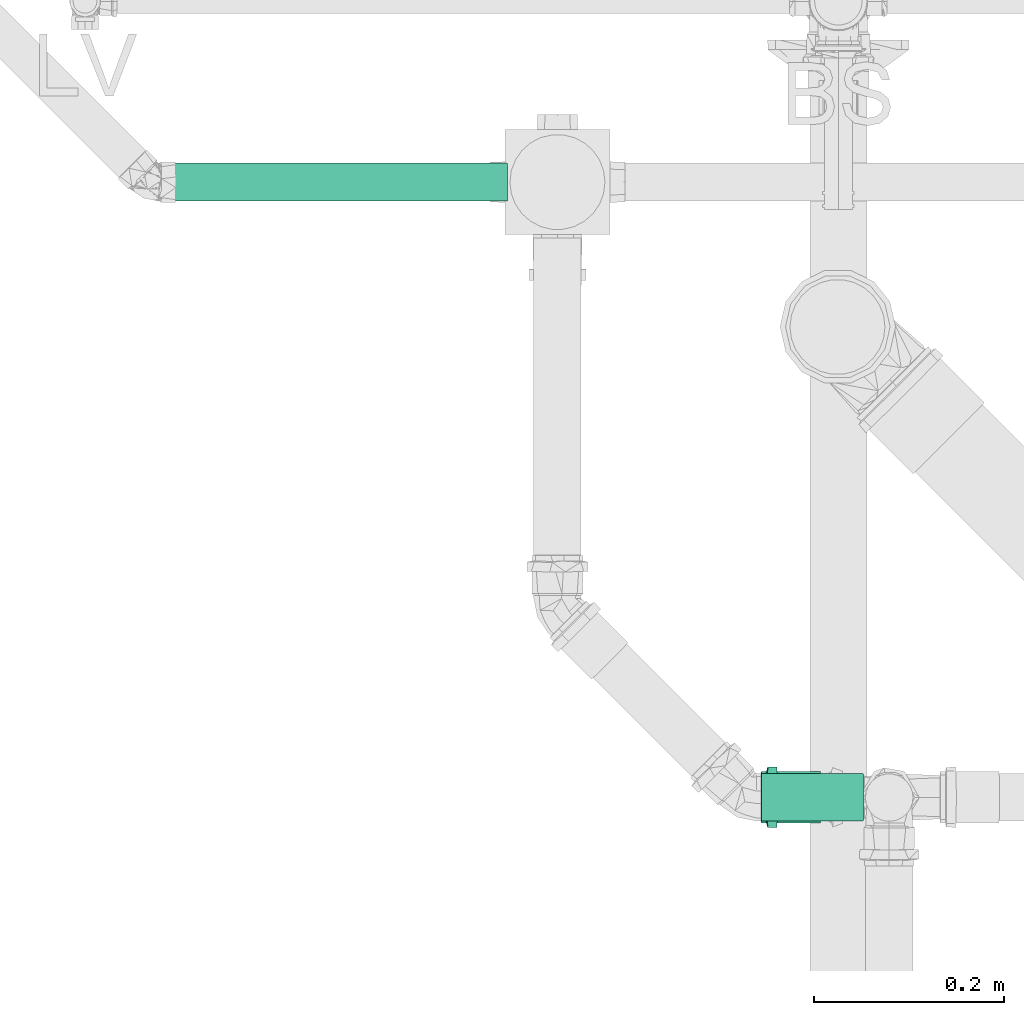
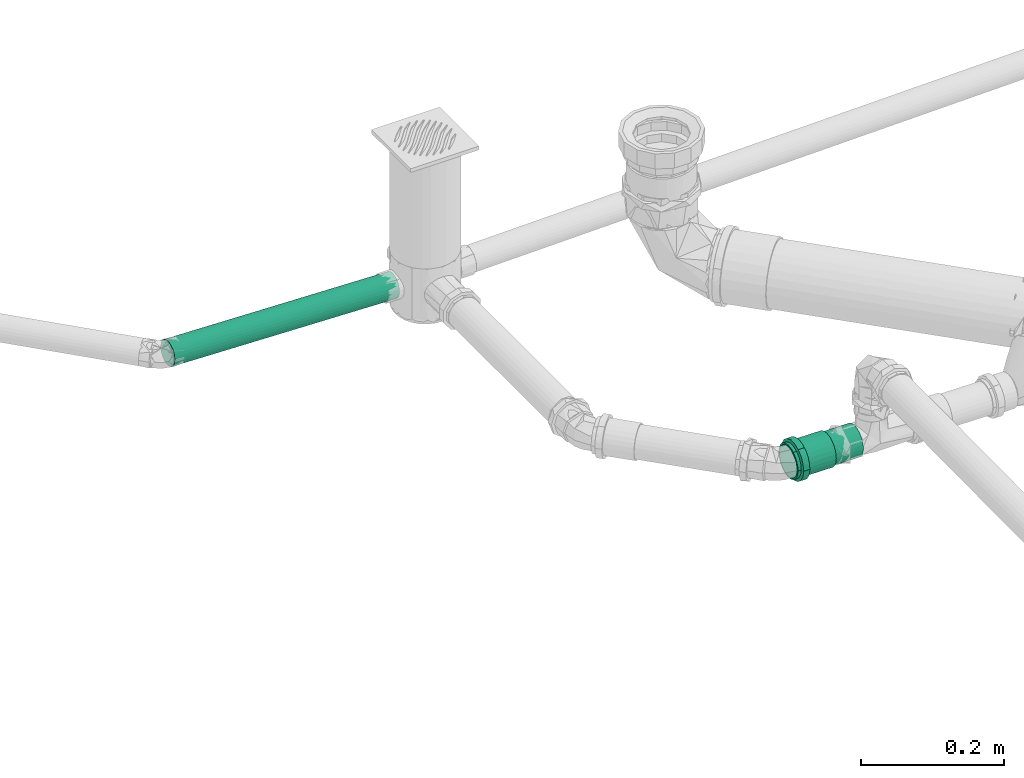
# One storey, part 283 of 589: 2 flow segments, 1 flow fitting.
"""IFC2X3 building model written with IfcOpenShell, lengths in millimetres."""

from ifc_helpers import new_model, entity, si_unit, converted_unit, derived_unit, direction, frame, frame_2d, origin, place, context, subcontext, project, spatial, circle, extrude, faceted_brep, source, transform, mapped, material, type_object, type_shapes, element, save


model = new_model("IFC2X3")

# Units and contexts
model_context = context("Model", 3, precision=0.01, world=origin(), true_north=direction((6.123031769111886e-17, 1.0)))
body_context = subcontext(model_context, "Body", "Model", "MODEL_VIEW")
ifc_project = project(units=[si_unit("LENGTHUNIT", "METRE", prefix="MILLI"), si_unit("AREAUNIT", "SQUARE_METRE"), si_unit("VOLUMEUNIT", "CUBIC_METRE"), converted_unit("PLANEANGLEUNIT", "DEGREE", entity("IfcRatioMeasure", 0.017453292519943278), si_unit("PLANEANGLEUNIT", "RADIAN"), dimensions=[0, 0, 0, 0, 0, 0, 0]), si_unit("MASSUNIT", "GRAM", prefix="KILO"), derived_unit("MASSDENSITYUNIT", [(si_unit("MASSUNIT", "GRAM", prefix="KILO"), 1), (si_unit("LENGTHUNIT", "METRE"), -3)]), derived_unit("IONCONCENTRATIONUNIT", [(si_unit("MASSUNIT", "GRAM", prefix="KILO"), 1), (si_unit("LENGTHUNIT", "METRE"), -3)]), derived_unit("MOMENTOFINERTIAUNIT", [(si_unit("LENGTHUNIT", "METRE"), 4)]), si_unit("TIMEUNIT", "SECOND"), si_unit("FREQUENCYUNIT", "HERTZ"), si_unit("THERMODYNAMICTEMPERATUREUNIT", "DEGREE_CELSIUS"), derived_unit("THERMALTRANSMITTANCEUNIT", [(si_unit("MASSUNIT", "GRAM", prefix="KILO"), 1), (si_unit("THERMODYNAMICTEMPERATUREUNIT", "KELVIN"), -1), (si_unit("TIMEUNIT", "SECOND"), -3)]), derived_unit("THERMALCONDUCTANCEUNIT", [(si_unit("MASSUNIT", "GRAM", prefix="KILO"), 1), (si_unit("THERMODYNAMICTEMPERATUREUNIT", "KELVIN"), -1), (si_unit("TIMEUNIT", "SECOND"), -3), (si_unit("LENGTHUNIT", "METRE"), 1)]), derived_unit("VOLUMETRICFLOWRATEUNIT", [(si_unit("LENGTHUNIT", "METRE"), 3), (si_unit("TIMEUNIT", "SECOND"), -1)]), derived_unit("MASSFLOWRATEUNIT", [(si_unit("MASSUNIT", "GRAM", prefix="KILO"), 1), (si_unit("TIMEUNIT", "SECOND"), -1)]), derived_unit("ROTATIONALFREQUENCYUNIT", [(si_unit("TIMEUNIT", "SECOND"), -1)]), si_unit("ELECTRICCURRENTUNIT", "AMPERE"), si_unit("ELECTRICVOLTAGEUNIT", "VOLT"), si_unit("POWERUNIT", "WATT"), si_unit("FORCEUNIT", "NEWTON", prefix="KILO"), si_unit("ILLUMINANCEUNIT", "LUX"), si_unit("LUMINOUSFLUXUNIT", "LUMEN"), si_unit("LUMINOUSINTENSITYUNIT", "CANDELA"), derived_unit("USERDEFINED", [(si_unit("MASSUNIT", "GRAM", prefix="KILO"), -1), (si_unit("LENGTHUNIT", "METRE"), -2), (si_unit("TIMEUNIT", "SECOND"), 3), (si_unit("LUMINOUSFLUXUNIT", "LUMEN"), 1)]), derived_unit("USERDEFINED", [(si_unit("MASSUNIT", "GRAM", prefix="KILO"), 1), (si_unit("TIMEUNIT", "SECOND"), -3), (si_unit("LENGTHUNIT", "METRE"), 3), (si_unit("ELECTRICCURRENTUNIT", "AMPERE"), -2)]), derived_unit("SOUNDPOWERUNIT", [(si_unit("MASSUNIT", "GRAM", prefix="KILO"), 1), (si_unit("TIMEUNIT", "SECOND"), -3), (si_unit("LENGTHUNIT", "METRE"), 2)]), derived_unit("SOUNDPRESSUREUNIT", [(si_unit("MASSUNIT", "GRAM", prefix="KILO"), 1), (si_unit("LENGTHUNIT", "METRE"), -1), (si_unit("TIMEUNIT", "SECOND"), -2)]), derived_unit("LINEARVELOCITYUNIT", [(si_unit("LENGTHUNIT", "METRE"), 1), (si_unit("TIMEUNIT", "SECOND"), -1)]), si_unit("PRESSUREUNIT", "PASCAL"), derived_unit("USERDEFINED", [(si_unit("MASSUNIT", "GRAM", prefix="KILO"), 1), (si_unit("LENGTHUNIT", "METRE"), -2), (si_unit("TIMEUNIT", "SECOND"), -2)]), derived_unit("LINEARFORCEUNIT", [(si_unit("MASSUNIT", "GRAM", prefix="KILO"), 1), (si_unit("TIMEUNIT", "SECOND"), -2)]), derived_unit("PLANARFORCEUNIT", [(si_unit("MASSUNIT", "GRAM", prefix="KILO"), 1), (si_unit("LENGTHUNIT", "METRE"), -1), (si_unit("TIMEUNIT", "SECOND"), -2)]), derived_unit("SPECIFICHEATCAPACITYUNIT", [(si_unit("THERMODYNAMICTEMPERATUREUNIT", "KELVIN"), -1), (si_unit("LENGTHUNIT", "METRE"), 2), (si_unit("TIMEUNIT", "SECOND"), -2)]), derived_unit("HEATINGVALUEUNIT", [(si_unit("LENGTHUNIT", "METRE"), 2), (si_unit("TIMEUNIT", "SECOND"), -2)]), derived_unit("VAPORPERMEABILITYUNIT", [(si_unit("LENGTHUNIT", "METRE"), -1), (si_unit("TIMEUNIT", "SECOND"), 1)]), derived_unit("DYNAMICVISCOSITYUNIT", [(si_unit("MASSUNIT", "GRAM", prefix="KILO"), 1), (si_unit("TIMEUNIT", "SECOND"), -1), (si_unit("LENGTHUNIT", "METRE"), -1)]), derived_unit("THERMALEXPANSIONCOEFFICIENTUNIT", [(si_unit("THERMODYNAMICTEMPERATUREUNIT", "KELVIN"), -1)]), derived_unit("MODULUSOFELASTICITYUNIT", [(si_unit("MASSUNIT", "GRAM", prefix="KILO"), 1), (si_unit("LENGTHUNIT", "METRE"), -1), (si_unit("TIMEUNIT", "SECOND"), -2)]), derived_unit("ISOTHERMALMOISTURECAPACITYUNIT", [(si_unit("LENGTHUNIT", "METRE"), 3), (si_unit("MASSUNIT", "GRAM", prefix="KILO"), -1)]), derived_unit("MOISTUREDIFFUSIVITYUNIT", [(si_unit("TIMEUNIT", "SECOND"), -1), (si_unit("LENGTHUNIT", "METRE"), 2)])], contexts=[model_context])

# Site, building, storey
site_placement = place(None, origin())
site = spatial("IfcSite", under=ifc_project, at=site_placement, Name="Default", CompositionType="ELEMENT")
building_placement = place(site_placement, origin())
building = spatial("IfcBuilding", under=site, at=building_placement, CompositionType="ELEMENT")
storey_placement = place(building_placement, frame((0.0, 0.0, 100.0)))
storey = spatial("IfcBuildingStorey", under=building, at=storey_placement, Name="TÉRREO", CompositionType="ELEMENT", Elevation=100.0)

# Flow segments
pipe_segment_type = type_object("IfcPipeSegmentType", Name="Tipos de tubos:PVC Esgoto Série Normal", PredefinedType="NOTDEFINED")
flow_segment_1_placement = place(storey_placement, origin())
element("IfcFlowSegment", 1, at=flow_segment_1_placement, inside=storey, type_object=pipe_segment_type, Name="Tipos de tubos:PVC Esgoto Série Normal", ObjectType="Tipos de tubos:PVC Esgoto Série Normal", context=body_context, shape_type="SweptSolid", body=[
    extrude(circle(Radius=20.0, at=frame_2d((0.0, -1.691224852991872e-14), x_axis=(1.0, 0.0))), frame((5706.379238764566, 7345.807722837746, -236.8858011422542), z_axis=(-0.9995537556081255, 0.0, 0.029871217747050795), x_axis=(0.0, -1.0, 0.0)), (0.0, 0.0, 1.0), 364.20602889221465),
])
flow_segment_2_placement = place(storey_placement, origin())
element("IfcFlowSegment", 2, at=flow_segment_2_placement, inside=storey, type_object=pipe_segment_type, Name="Tipos de tubos:PVC Esgoto Série Normal", ObjectType="Tipos de tubos:PVC Esgoto Série Normal", context=body_context, shape_type="SweptSolid", body=[
    extrude(circle(Radius=25.0, at=frame_2d((0.0, -3.383790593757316e-14), x_axis=(1.0, 0.0))), frame((5973.740471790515, 6698.647194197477, -240.0122685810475), z_axis=(0.9999500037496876, 0.0, -0.009999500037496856), x_axis=(0.0, -1.0, 0.0)), (0.0, 0.0, 1.0), 107.20216465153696),
])

# Flow fitting
ifc_material = material(Name="PVC Série Normal")
pipe_fitting_type = type_object("IfcPipeFittingType", Name="PVC Esgoto_Luva Simples para Conexão_Rodrigo MEP:Standard", PredefinedType="NOTDEFINED", material=ifc_material)
shared_shape = source(origin(), body_context, "Body", "Brep", [
    faceted_brep([(16.599999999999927, 15.900000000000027, -27.53960784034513), (16.599999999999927, 22.485995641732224, -22.485995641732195), (16.599999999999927, 13.599999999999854, -23.555890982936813), (16.599999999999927, 7.039878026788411, -26.273182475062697), (16.599999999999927, 8.2304456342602, -30.71644127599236), (16.599999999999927, 19.233304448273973, -19.233304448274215), (16.599999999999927, 27.539607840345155, -15.899999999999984), (16.599999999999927, 23.55589098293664, -13.600000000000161), (16.599999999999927, 26.273182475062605, -7.03987802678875), (16.599999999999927, 30.716441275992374, -8.230445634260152), (16.599999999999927, 27.2, 0.0), (16.599999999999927, 31.8, 0.0), (16.599999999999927, 26.273182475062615, 7.0398780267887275), (16.599999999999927, 30.71644127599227, 8.23044563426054), (16.599999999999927, 23.555890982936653, 13.60000000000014), (16.599999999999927, 27.539607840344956, 15.900000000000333), (16.599999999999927, 19.233304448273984, 19.2333044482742), (16.599999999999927, 22.485995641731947, 22.48599564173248), (16.599999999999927, 13.599999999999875, 23.555890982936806), (16.599999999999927, 15.899999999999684, 27.53960784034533), (16.599999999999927, 7.039878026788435, 26.27318247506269), (16.599999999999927, 8.230445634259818, 30.716441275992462), (16.599999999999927, 0.0, 27.2), (16.599999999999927, 0.0, 31.8), (16.599999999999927, -7.039878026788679, 26.273182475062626), (16.599999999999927, -8.230445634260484, 30.716441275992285), (16.599999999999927, -13.600000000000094, 23.555890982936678), (16.599999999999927, -15.900000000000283, 27.53960784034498), (16.599999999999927, -19.23330444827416, 19.233304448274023), (16.599999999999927, -22.485995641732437, 22.48599564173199), (16.599999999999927, -23.55589098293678, 13.59999999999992), (16.599999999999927, -27.539607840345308, 15.899999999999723), (16.599999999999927, -30.71644127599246, 8.230445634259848), (16.599999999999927, -26.273182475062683, 7.039878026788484), (16.599999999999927, -31.8, 0.0), (16.599999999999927, -27.2, 0.0), (16.599999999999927, -30.71644127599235, -8.23044563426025), (16.599999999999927, -26.273182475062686, -7.03987802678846), (16.599999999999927, -27.53960784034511, -15.90000000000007), (16.599999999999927, -23.55589098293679, -13.599999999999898), (16.599999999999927, -22.485995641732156, -22.485995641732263), (16.599999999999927, -19.233304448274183, -19.233304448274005), (16.599999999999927, -15.899999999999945, -27.53960784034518), (16.599999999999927, -13.600000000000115, -23.555890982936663), (16.599999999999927, -8.230445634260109, -30.716441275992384), (16.599999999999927, -7.039878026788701, -26.273182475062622), (16.599999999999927, 0.0, -31.8), (16.599999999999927, 0.0, -27.2), (6.500000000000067, -10.708108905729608, 29.429219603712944), (6.500000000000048, -24.359073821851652, 20.44200387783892), (6.500000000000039, -27.120498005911, 15.6595386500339), (6.50000000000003, -29.881922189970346, 10.877073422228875), (6.500000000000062, -15.89769721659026, 27.540937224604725), (6.500000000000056, -20.128385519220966, 23.991470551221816), (6.50000000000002, -30.840961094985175, 5.438536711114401), (6.5000000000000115, -31.8, 0.0), (6.50000000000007, -5.518520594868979, 31.317501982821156), (6.500000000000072, 5.526376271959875, 31.316116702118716), (6.50000000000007, 0.00392783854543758, 31.316809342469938), (6.500000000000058, 20.134403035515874, 23.986420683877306), (6.500000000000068, 10.715490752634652, 29.42653259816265), (6.500000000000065, 15.904605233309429, 27.536948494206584), (6.500000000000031, 29.8846497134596, 10.869577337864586), (6.500000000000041, 27.12442527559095, 15.652735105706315), (6.5000000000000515, 24.364200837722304, 20.435892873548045), (6.5000000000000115, 31.8, 0.0), (6.499999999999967, 24.364200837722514, -20.435892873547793), (6.499999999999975, 27.12442527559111, -15.652735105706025), (6.499999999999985, 29.884649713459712, -10.869577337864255), (6.4999999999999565, 15.904605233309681, -27.53694849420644), (6.499999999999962, 20.134403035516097, -23.986420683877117), (6.499999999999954, 10.715490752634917, -29.42653259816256), (6.499999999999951, 5.526376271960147, -31.31611670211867), (6.499999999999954, -5.518520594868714, -31.317501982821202), (6.499999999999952, 0.003927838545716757, -31.316809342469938), (6.499999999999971, -20.128385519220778, -23.99147055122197), (6.499999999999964, -15.897697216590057, -27.54093722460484), (6.499999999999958, -10.70810890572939, -29.42921960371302), (6.499999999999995, -29.881922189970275, -10.877073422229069), (6.499999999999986, -27.12049800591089, -15.659538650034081), (6.499999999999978, -24.359073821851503, -20.442003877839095), (6.500000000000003, -30.840961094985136, -5.438536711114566), (6.499999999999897, -30.696173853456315, -6.259599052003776), (62.0, 13.600000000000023, -23.55589098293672), (62.0, 19.233304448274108, -19.23330444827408), (62.0, 12.499999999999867, -21.650635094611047), (62.0, 6.470476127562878, -24.14814565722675), (62.0, 7.039878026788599, -26.273182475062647), (62.0, 17.677669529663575, -17.677669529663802), (62.0, 23.55589098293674, -13.599999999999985), (62.0, 21.65063509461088, -12.50000000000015), (62.0, 24.148145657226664, -6.470476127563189), (62.0, 26.27318247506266, -7.039878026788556), (62.0, 25.0, 0.0), (62.0, 27.2, 0.0), (62.0, 24.148145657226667, 6.4704761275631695), (62.0, 26.273182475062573, 7.03987802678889), (62.0, 21.650635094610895, 12.500000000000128), (62.0, 23.555890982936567, 13.600000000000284), (62.0, 17.67766952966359, 17.67766952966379), (62.0, 19.233304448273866, 19.233304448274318), (62.0, 12.499999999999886, 21.650635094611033), (62.0, 13.59999999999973, 23.55589098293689), (62.0, 6.4704761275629, 24.14814565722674), (62.0, 7.039878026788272, 26.273182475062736), (62.0, 0.0, 25.0), (62.0, 0.0, 27.2), (62.0, -6.470476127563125, 24.148145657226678), (62.0, -7.039878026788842, 26.273182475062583), (62.0, -12.500000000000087, 21.650635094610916), (62.0, -13.600000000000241, 23.555890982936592), (62.0, -17.677669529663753, 17.677669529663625), (62.0, -19.233304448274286, 19.2333044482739), (62.0, -21.65063509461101, 12.499999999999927), (62.0, -23.555890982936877, 13.599999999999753), (62.0, -26.27318247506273, 7.039878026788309), (62.0, -24.14814565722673, 6.470476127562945), (62.0, -27.2, 0.0), (62.0, -25.0, 0.0), (62.0, -26.27318247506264, -7.0398780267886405), (62.0, -24.148145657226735, -6.470476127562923), (62.0, -23.5558909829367, -13.600000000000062), (62.0, -21.650635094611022, -12.499999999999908), (62.0, -19.233304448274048, -19.233304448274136), (62.0, -17.67766952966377, -17.677669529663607), (62.0, -13.599999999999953, -23.555890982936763), (62.0, -12.500000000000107, -21.650635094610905), (62.0, -7.039878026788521, -26.27318247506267), (62.0, -6.470476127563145, -24.148145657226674), (62.0, 0.0, -27.2), (62.0, 0.0, -25.0), (0.0, 12.499999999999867, -21.650635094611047), (0.0, 19.233304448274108, -19.23330444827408), (0.0, 13.600000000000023, -23.55589098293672), (0.0, 6.470476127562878, -24.14814565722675), (0.0, 17.677669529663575, -17.677669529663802), (0.0, 23.55589098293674, -13.599999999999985), (0.0, 21.65063509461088, -12.50000000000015), (0.0, 24.148145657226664, -6.470476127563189), (0.0, 26.27318247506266, -7.039878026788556), (0.0, 25.0, 0.0), (0.0, 27.2, 0.0), (0.0, 24.148145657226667, 6.4704761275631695), (0.0, 26.273182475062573, 7.03987802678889), (0.0, 21.650635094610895, 12.500000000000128), (0.0, 23.555890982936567, 13.600000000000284), (0.0, 17.67766952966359, 17.67766952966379), (0.0, 19.233304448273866, 19.233304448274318), (0.0, 12.499999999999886, 21.650635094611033), (0.0, 13.59999999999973, 23.55589098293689), (0.0, 6.4704761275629, 24.14814565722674), (0.0, 7.039878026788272, 26.273182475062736), (0.0, 0.0, 25.0), (0.0, 0.0, 27.2), (0.0, -6.470476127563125, 24.148145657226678), (0.0, -7.039878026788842, 26.273182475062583), (0.0, -12.500000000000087, 21.650635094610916), (0.0, -13.600000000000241, 23.555890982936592), (0.0, -17.677669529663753, 17.677669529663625), (0.0, -19.233304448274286, 19.2333044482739), (0.0, -21.65063509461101, 12.499999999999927), (0.0, -23.555890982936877, 13.599999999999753), (0.0, -26.27318247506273, 7.039878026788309), (0.0, -24.14814565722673, 6.470476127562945), (0.0, -27.2, 0.0), (0.0, -25.0, 0.0), (0.0, -26.27318247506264, -7.0398780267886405), (0.0, -24.148145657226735, -6.470476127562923), (0.0, -23.5558909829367, -13.600000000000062), (0.0, -21.650635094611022, -12.499999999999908), (0.0, -19.233304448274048, -19.233304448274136), (0.0, -17.67766952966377, -17.677669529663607), (0.0, -13.599999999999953, -23.555890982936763), (0.0, -12.500000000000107, -21.650635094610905), (0.0, -7.039878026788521, -26.27318247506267), (0.0, -6.470476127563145, -24.148145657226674), (0.0, 0.0, -27.2), (0.0, 0.0, -25.0), (0.0, 7.039878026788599, -26.273182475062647), (5.300000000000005, -26.37968999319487, 4.651830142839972), (5.299999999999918, -26.25584678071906, 5.354122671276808), (5.300000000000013, -25.559379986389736, 9.303660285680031), (5.300000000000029, -20.835434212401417, 17.48498444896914), (5.300000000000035, -17.216732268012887, 20.521006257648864), (5.300000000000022, -23.19740709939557, 13.394322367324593), (5.3000000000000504, -4.720244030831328, 26.787297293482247), (5.300000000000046, -9.15913717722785, 25.172162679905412), (5.299999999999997, -27.2, 0.0), (5.300000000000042, -13.598030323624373, 23.557028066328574), (5.300000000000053, 9.165451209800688, 25.169864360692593), (5.300000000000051, 13.603939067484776, 23.55361632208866), (5.300000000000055, 4.7269633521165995, 26.786112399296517), (5.300000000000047, 17.221879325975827, 20.516686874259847), (5.300000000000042, 20.839819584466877, 17.479757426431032), (5.3000000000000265, 25.56171296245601, 9.297248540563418), (5.299999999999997, 27.2, 0.0), (5.3000000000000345, 23.20076627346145, 13.388502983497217), (5.300000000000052, 0.003359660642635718, 26.786704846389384), (5.299999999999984, 25.56171296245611, -9.29724854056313), (5.299999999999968, 20.839819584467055, -17.47975742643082), (5.2999999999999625, 17.22187932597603, -20.516686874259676), (5.299999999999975, 23.200766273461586, -13.388502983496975), (5.299999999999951, 4.726963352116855, -26.78611239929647), (5.2999999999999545, 9.165451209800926, -25.169864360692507), (5.299999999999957, 13.603939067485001, -23.553616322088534), (5.29999999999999, -26.379689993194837, -4.651830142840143), (5.299999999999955, -9.159137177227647, -25.17216267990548), (5.299999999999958, -13.5980303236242, -23.55702806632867), (5.299999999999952, -4.720244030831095, -26.787297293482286), (5.299999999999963, -17.216732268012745, -20.52100625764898), (5.299999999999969, -20.83543421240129, -17.484984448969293), (5.299999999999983, -25.559379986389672, -9.303660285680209), (5.299999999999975, -23.197407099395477, -13.394322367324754), (5.299999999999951, 0.003359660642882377, -26.78670484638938), (39.0, -25.0, 0.0), (39.0, 25.0, 0.0)], [[[0, 1, 2]], [[0, 2, 3]], [[3, 4, 0]], [[2, 1, 5]], [[6, 5, 1]], [[7, 5, 6]], [[8, 7, 6]], [[8, 6, 9]], [[8, 9, 10]], [[10, 9, 11]], [[12, 10, 11]], [[12, 11, 13]], [[14, 12, 13]], [[14, 13, 15]], [[16, 14, 15]], [[15, 17, 16]], [[17, 18, 16]], [[17, 19, 18]], [[18, 19, 20]], [[21, 20, 19]], [[20, 21, 22]], [[22, 21, 23]], [[22, 23, 24]], [[24, 23, 25]], [[24, 25, 26]], [[27, 26, 25]], [[27, 28, 26]], [[28, 27, 29]], [[30, 28, 29]], [[31, 30, 29]], [[32, 30, 31]], [[33, 30, 32]], [[33, 32, 34]], [[35, 33, 34]], [[36, 35, 34]], [[36, 37, 35]], [[37, 36, 38]], [[39, 37, 38]], [[39, 38, 40]], [[39, 40, 41]], [[40, 42, 41]], [[41, 42, 43]], [[43, 42, 44]], [[44, 45, 43]], [[46, 45, 44]], [[4, 47, 46]], [[46, 47, 45]], [[4, 3, 47]], [[48, 27, 25]], [[31, 29, 49]], [[31, 49, 50, 51]], [[52, 53, 27]], [[32, 51, 54]], [[54, 55, 34]], [[54, 34, 32]], [[25, 56, 48]], [[49, 29, 53]], [[23, 57, 58, 56]], [[59, 19, 17]], [[27, 53, 29]], [[48, 52, 27]], [[31, 51, 32]], [[57, 23, 21]], [[60, 19, 61]], [[15, 62, 63, 64]], [[19, 60, 21]], [[15, 13, 62]], [[17, 64, 59]], [[57, 21, 60]], [[23, 56, 25]], [[15, 64, 17]], [[13, 65, 62]], [[13, 11, 65]], [[59, 61, 19]], [[65, 11, 9]], [[6, 1, 66]], [[6, 66, 67, 68]], [[69, 70, 0]], [[68, 65, 9]], [[71, 69, 0]], [[71, 0, 4]], [[4, 72, 71]], [[66, 1, 70]], [[46, 73, 74, 72]], [[75, 76, 42]], [[0, 70, 1]], [[75, 42, 40]], [[6, 68, 9]], [[73, 46, 44]], [[77, 42, 76]], [[38, 78, 79, 80]], [[42, 77, 44]], [[38, 36, 78]], [[40, 80, 75]], [[73, 44, 77]], [[46, 72, 4]], [[38, 80, 40]], [[36, 81, 82, 78]], [[55, 81, 34]], [[34, 81, 36]], [[83, 84, 85]], [[83, 85, 86]], [[86, 87, 83]], [[85, 84, 88]], [[89, 88, 84]], [[88, 89, 90]], [[90, 89, 91]], [[92, 91, 89]], [[92, 93, 91]], [[93, 92, 94]], [[95, 93, 94]], [[94, 96, 95]], [[95, 96, 97]], [[98, 97, 96]], [[97, 98, 99]], [[99, 98, 100]], [[101, 99, 100]], [[100, 102, 101]], [[101, 102, 103]], [[104, 103, 102]], [[103, 104, 105]], [[105, 104, 106]], [[105, 106, 107]], [[107, 106, 108]], [[107, 108, 109]], [[110, 109, 108]], [[110, 111, 109]], [[111, 110, 112]], [[112, 113, 111]], [[114, 113, 112]], [[113, 114, 115]], [[115, 116, 113]], [[117, 116, 115]], [[117, 118, 116]], [[119, 118, 117]], [[119, 120, 118]], [[120, 119, 121]], [[121, 122, 120]], [[122, 121, 123]], [[122, 123, 124]], [[123, 125, 124]], [[124, 125, 126]], [[126, 125, 127]], [[127, 128, 126]], [[129, 128, 127]], [[87, 130, 129]], [[129, 130, 128]], [[87, 86, 130]], [[131, 132, 133]], [[134, 131, 133]], [[135, 132, 131]], [[132, 135, 136]], [[137, 136, 135]], [[138, 136, 137]], [[136, 138, 139]], [[138, 140, 139]], [[141, 139, 140]], [[141, 140, 142]], [[142, 143, 141]], [[144, 143, 142]], [[143, 144, 145]], [[146, 145, 144]], [[147, 145, 146]], [[147, 146, 148]], [[148, 149, 147]], [[150, 149, 148]], [[149, 150, 151]], [[152, 151, 150]], [[153, 151, 152]], [[154, 153, 152]], [[155, 153, 154]], [[156, 155, 154]], [[155, 156, 157]], [[156, 158, 157]], [[159, 157, 158]], [[158, 160, 159]], [[159, 160, 161]], [[162, 161, 160]], [[160, 163, 162]], [[162, 163, 164]], [[163, 165, 164]], [[164, 165, 166]], [[165, 167, 166]], [[168, 166, 167]], [[167, 169, 168]], [[170, 168, 169]], [[171, 170, 169]], [[171, 172, 170]], [[173, 172, 171]], [[174, 172, 173]], [[173, 175, 174]], [[174, 175, 176]], [[175, 177, 176]], [[177, 134, 178]], [[176, 177, 178]], [[133, 178, 134]], [[162, 179, 180, 181]], [[159, 182, 183]], [[182, 161, 181, 184]], [[185, 155, 186]], [[161, 162, 181]], [[187, 179, 164]], [[183, 188, 157]], [[183, 157, 159]], [[161, 182, 159]], [[189, 190, 149]], [[189, 149, 151]], [[157, 188, 186]], [[157, 186, 155]], [[153, 155, 185]], [[164, 179, 162]], [[151, 191, 189]], [[147, 192, 193]], [[143, 194, 195]], [[194, 145, 193, 196]], [[143, 195, 141]], [[10, 12, 96, 94]], [[149, 192, 147]], [[153, 185, 197, 191]], [[153, 191, 151]], [[145, 147, 193]], [[190, 192, 149]], [[145, 194, 143]], [[139, 195, 198]], [[132, 199, 200]], [[199, 136, 198, 201]], [[202, 178, 203]], [[136, 139, 198]], [[139, 141, 195]], [[92, 8, 10, 94]], [[133, 203, 178]], [[200, 204, 133]], [[136, 199, 132]], [[205, 164, 166]], [[206, 207, 172]], [[133, 204, 203]], [[206, 172, 174]], [[176, 178, 202]], [[200, 133, 132]], [[174, 208, 206]], [[170, 209, 210]], [[166, 211, 205]], [[211, 168, 210, 212]], [[168, 211, 166]], [[172, 209, 170]], [[176, 202, 213, 208]], [[176, 208, 174]], [[168, 170, 210]], [[207, 209, 172]], [[205, 187, 164]], [[116, 118, 214, 165, 163]], [[156, 109, 111, 158]], [[111, 113, 160, 158]], [[113, 116, 163, 160]], [[107, 109, 156, 154]], [[154, 152, 105, 107]], [[103, 105, 152, 150]], [[103, 150, 148, 101]], [[142, 95, 97, 144]], [[97, 99, 146, 144]], [[99, 101, 148, 146]], [[93, 95, 142, 140, 215]], [[215, 140, 138, 91, 93]], [[135, 131, 85, 88]], [[90, 91, 138, 137]], [[90, 137, 135, 88]], [[86, 85, 131, 134]], [[134, 177, 130, 86]], [[128, 130, 177, 175]], [[128, 175, 173, 126]], [[167, 120, 122, 169]], [[122, 124, 171, 169]], [[124, 126, 173, 171]], [[118, 120, 167, 165, 214]], [[211, 78, 82, 81, 55, 187, 205]], [[79, 78, 211, 212, 210, 80]], [[75, 80, 210, 209, 207, 76]], [[207, 206, 208, 73, 77, 76]], [[213, 202, 72, 74, 73, 208]], [[203, 204, 69, 71, 72, 202]], [[198, 195, 65, 68]], [[199, 201, 198, 68, 67, 66]], [[204, 200, 199, 66, 70, 69]], [[195, 194, 62, 65]], [[197, 185, 56, 58, 57, 191]], [[63, 62, 194, 196, 193, 64]], [[57, 60, 61, 190, 189, 191]], [[193, 192, 190, 61, 59, 64]], [[48, 56, 185, 186, 188, 52]], [[187, 55, 54, 51, 181, 180, 179]], [[182, 184, 181, 51, 50, 49]], [[188, 183, 182, 49, 53, 52]], [[30, 33, 115, 114]], [[117, 115, 33, 35]], [[26, 28, 112, 110]], [[114, 112, 28, 30]], [[24, 26, 110, 108]], [[108, 106, 22, 24]], [[18, 20, 104, 102]], [[100, 16, 18, 102]], [[12, 14, 98, 96]], [[100, 98, 14, 16]], [[104, 20, 22, 106]], [[89, 7, 8, 92]], [[83, 87, 3, 2]], [[7, 89, 84, 5]], [[83, 2, 5, 84]], [[87, 129, 47, 3]], [[43, 45, 127, 125]], [[123, 41, 43, 125]], [[37, 39, 121, 119]], [[123, 121, 39, 41]], [[35, 37, 119, 117]], [[127, 45, 47, 129]]]),
])
type_shapes(pipe_fitting_type, [shared_shape])
flow_fitting_placement = place(storey_placement, frame((5973.740471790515, 6698.647194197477, -240.0122685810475), z_axis=(0.009999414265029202, -0.0041418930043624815, 0.9999414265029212), x_axis=(0.9999500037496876, 0.0, -0.009999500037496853)))
element("IfcFlowFitting", 3, at=flow_fitting_placement, inside=storey, type_object=pipe_fitting_type, material=ifc_material, Name="PVC Esgoto_Luva Simples para Conexão_Rodrigo MEP:Standard", ObjectType="PVC Esgoto_Luva Simples para Conexão_Rodrigo MEP:Standard", context=body_context, shape_type="MappedRepresentation", body=[
    mapped(shared_shape, transform((0.0, 0.0, 0.0), scale=1.0)),
])

save(model, "model.ifc")
